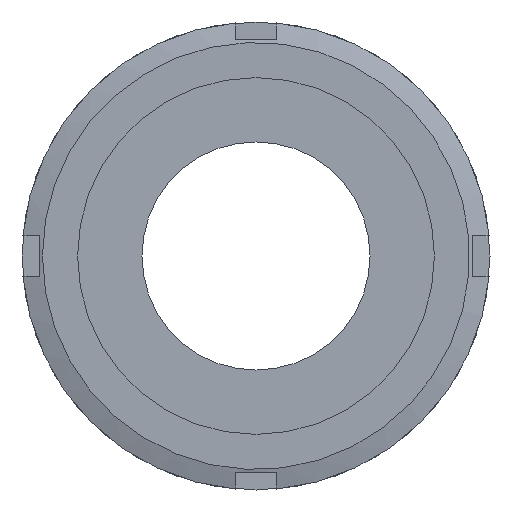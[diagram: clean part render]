
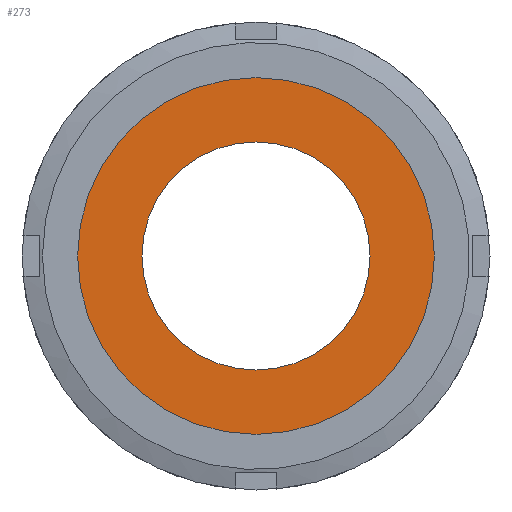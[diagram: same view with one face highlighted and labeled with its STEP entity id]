
A CAD part, left-side view. The second image highlights one B-rep face of the part: STEP entity #273.
In plain terms, the highlighted planar face has unit normal (-1, 0, 0) as drawn and (0, -1, 0) by its records, which use the part's own axes.
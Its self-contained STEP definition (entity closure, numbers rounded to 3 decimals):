
#273 = ADVANCED_FACE( '', ( #402, #403 ), #404, .T. );
#402 = FACE_OUTER_BOUND( '', #610, .T. );
#403 = FACE_BOUND( '', #611, .T. );
#404 = PLANE( '', #612 );
#610 = EDGE_LOOP( '', ( #961 ) );
#611 = EDGE_LOOP( '', ( #962 ) );
#612 = AXIS2_PLACEMENT_3D( '', #963, #964, #965 );
#961 = ORIENTED_EDGE( '', *, *, #1422, .T. );
#962 = ORIENTED_EDGE( '', *, *, #1423, .F. );
#963 = CARTESIAN_POINT( '', ( 19.5, 0., 0. ) );
#964 = DIRECTION( '', ( 0., -1., 0. ) );
#965 = DIRECTION( '', ( 0., 0., -1. ) );
#1422 = EDGE_CURVE( '', #1649, #1649, #1650, .T. );
#1423 = EDGE_CURVE( '', #1651, #1651, #1652, .T. );
#1649 = VERTEX_POINT( '', #2105 );
#1650 = CIRCLE( '', #2106, 30.5 );
#1651 = VERTEX_POINT( '', #2107 );
#1652 = CIRCLE( '', #2108, 19.5 );
#2105 = CARTESIAN_POINT( '', ( 0., 0., -30.5 ) );
#2106 = AXIS2_PLACEMENT_3D( '', #2580, #2581, #2582 );
#2107 = CARTESIAN_POINT( '', ( 0., 0., -19.5 ) );
#2108 = AXIS2_PLACEMENT_3D( '', #2583, #2584, #2585 );
#2580 = CARTESIAN_POINT( '', ( 0., 0., 0. ) );
#2581 = DIRECTION( '', ( 0., -1., 0. ) );
#2582 = DIRECTION( '', ( 0., 0., -1. ) );
#2583 = CARTESIAN_POINT( '', ( 0., 0., 0. ) );
#2584 = DIRECTION( '', ( 0., -1., 0. ) );
#2585 = DIRECTION( '', ( 0., 0., -1. ) );
